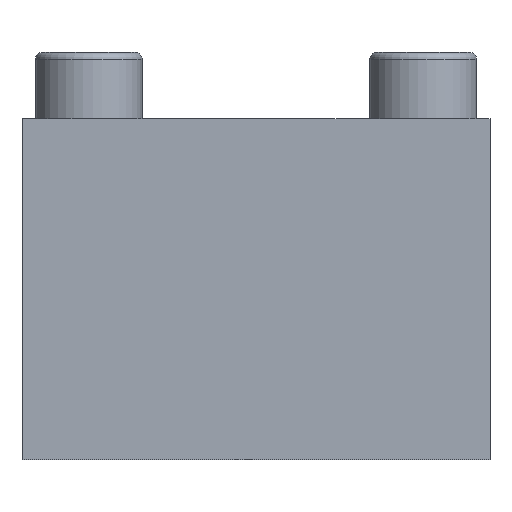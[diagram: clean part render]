
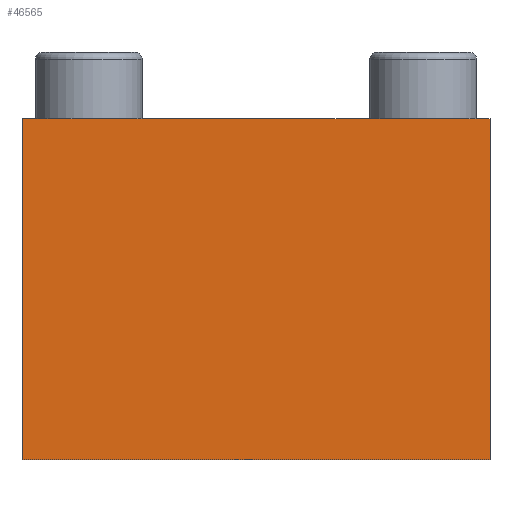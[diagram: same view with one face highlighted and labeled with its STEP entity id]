
A CAD part, front view. The second image highlights one B-rep face of the part: STEP entity #46565.
In plain terms, the highlighted planar face has unit normal (0, -1, 0).
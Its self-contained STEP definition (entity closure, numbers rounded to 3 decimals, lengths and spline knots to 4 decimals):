
#2548=FACE_OUTER_BOUND('',#5230,.T.);
#5230=EDGE_LOOP('',(#30974,#30975,#30976,#30977));
#7815=LINE('',#59989,#12923);
#9150=LINE('',#65331,#14258);
#9153=LINE('',#65337,#14261);
#9154=LINE('',#65338,#14262);
#12923=VECTOR('',#50994,7.);
#14258=VECTOR('',#52407,5.1);
#14261=VECTOR('',#52412,5.1);
#14262=VECTOR('',#52413,7.);
#18031=VERTEX_POINT('',#59986);
#18032=VERTEX_POINT('',#59988);
#19920=VERTEX_POINT('',#65330);
#19922=VERTEX_POINT('',#65336);
#22463=EDGE_CURVE('',#18031,#18032,#7815,.T.);
#24352=EDGE_CURVE('',#18031,#19920,#9150,.T.);
#24355=EDGE_CURVE('',#18032,#19922,#9153,.T.);
#24356=EDGE_CURVE('',#19922,#19920,#9154,.T.);
#30974=ORIENTED_EDGE('',*,*,#24355,.F.);
#30975=ORIENTED_EDGE('',*,*,#22463,.F.);
#30976=ORIENTED_EDGE('',*,*,#24352,.T.);
#30977=ORIENTED_EDGE('',*,*,#24356,.F.);
#42314=PLANE('',#49087);
#46565=ADVANCED_FACE('',(#2548),#42314,.T.);
#49087=AXIS2_PLACEMENT_3D('',#65335,#52410,#52411);
#50994=DIRECTION('',(1.,0.,0.));
#52407=DIRECTION('',(0.,0.,-1.));
#52410=DIRECTION('center_axis',(0.,-1.,0.));
#52411=DIRECTION('ref_axis',(-1.,0.,0.));
#52412=DIRECTION('',(0.,0.,-1.));
#52413=DIRECTION('',(-1.,0.,0.));
#59986=CARTESIAN_POINT('',(-3.5,-12.5,4.1));
#59988=CARTESIAN_POINT('',(3.5,-12.5,4.1));
#59989=CARTESIAN_POINT('',(3.5,-12.5,4.1));
#65330=CARTESIAN_POINT('',(-3.5,-12.5,-1.));
#65331=CARTESIAN_POINT('',(-3.5,-12.5,0.));
#65335=CARTESIAN_POINT('Origin',(3.5,-12.5,3.1));
#65336=CARTESIAN_POINT('',(3.5,-12.5,-1.));
#65337=CARTESIAN_POINT('',(3.5,-12.5,0.));
#65338=CARTESIAN_POINT('',(3.5,-12.5,-1.));
